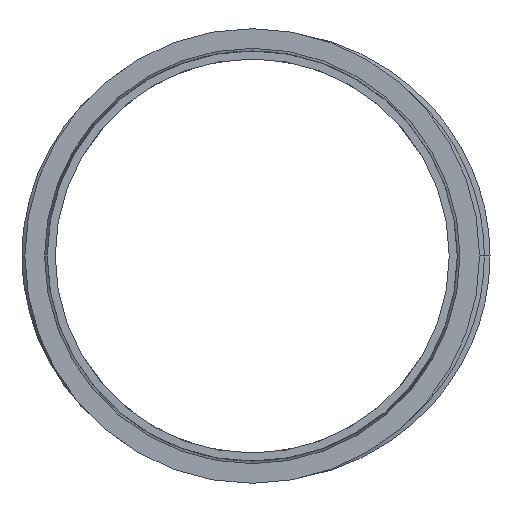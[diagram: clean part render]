
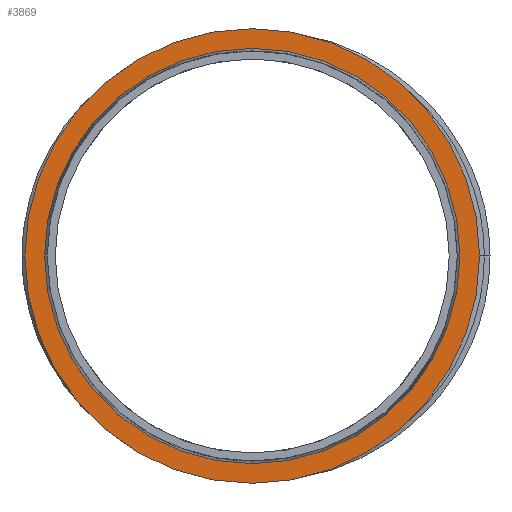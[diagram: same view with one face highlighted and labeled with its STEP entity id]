
A CAD part, left-side view. The second image highlights one B-rep face of the part: STEP entity #3869.
In plain terms, the highlighted planar face has unit normal (-1, 0, 0).
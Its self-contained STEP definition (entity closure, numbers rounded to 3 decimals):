
#3744=CARTESIAN_POINT('',(-400.,0.,0.));
#3745=DIRECTION('',(-1.,0.,0.));
#3746=DIRECTION('',(0.,1.,0.));
#3747=AXIS2_PLACEMENT_3D('',#3744,#3745,#3746);
#3752=CARTESIAN_POINT('',(-400.,0.,0.));
#3753=DIRECTION('',(1.,0.,0.));
#3754=DIRECTION('',(0.,1.,0.));
#3755=AXIS2_PLACEMENT_3D('',#3752,#3753,#3754);
#3806=CARTESIAN_POINT('',(-400.,0.,0.));
#3807=DIRECTION('',(-1.,0.,0.));
#3808=DIRECTION('',(0.,1.,0.));
#3809=AXIS2_PLACEMENT_3D('',#3806,#3807,#3808);
#3821=CARTESIAN_POINT('',(-400.,0.,0.));
#3822=DIRECTION('',(1.,0.,0.));
#3823=DIRECTION('',(0.,1.,0.));
#3824=AXIS2_PLACEMENT_3D('',#3821,#3822,#3823);
#3836=CARTESIAN_POINT('',(-400.,39.,0.));
#3838=VERTEX_POINT('',#3836);
#3841=CARTESIAN_POINT('',(-400.,42.7,0.));
#3843=VERTEX_POINT('',#3841);
#3844=CARTESIAN_POINT('',(-400.,-39.,0.));
#3846=VERTEX_POINT('',#3844);
#3849=CARTESIAN_POINT('',(-400.,-42.7,0.));
#3851=VERTEX_POINT('',#3849);
#3852=CARTESIAN_POINT('',(-400.,0.,0.));
#3853=DIRECTION('',(-1.,0.,0.));
#3854=DIRECTION('',(0.,1.,0.));
#3855=AXIS2_PLACEMENT_3D('',#3852,#3853,#3854);
#3856=PLANE('',#3855);
#3858=ORIENTED_EDGE('',*,*,#3857,.F.);
#3860=ORIENTED_EDGE('',*,*,#3859,.T.);
#3861=EDGE_LOOP('',(#3858,#3860));
#3862=FACE_OUTER_BOUND('',#3861,.F.);
#3864=ORIENTED_EDGE('',*,*,#3863,.F.);
#3866=ORIENTED_EDGE('',*,*,#3865,.T.);
#3867=EDGE_LOOP('',(#3864,#3866));
#3868=FACE_BOUND('',#3867,.F.);
#3748=CIRCLE('',#3747,42.7);
#3756=CIRCLE('',#3755,42.7);
#3810=CIRCLE('',#3809,39.);
#3825=CIRCLE('',#3824,39.);
#3857=EDGE_CURVE('',#3843,#3851,#3748,.T.);
#3859=EDGE_CURVE('',#3843,#3851,#3756,.T.);
#3863=EDGE_CURVE('',#3838,#3846,#3825,.T.);
#3865=EDGE_CURVE('',#3838,#3846,#3810,.T.);
#3869=ADVANCED_FACE('',(#3862,#3868),#3856,.T.);
